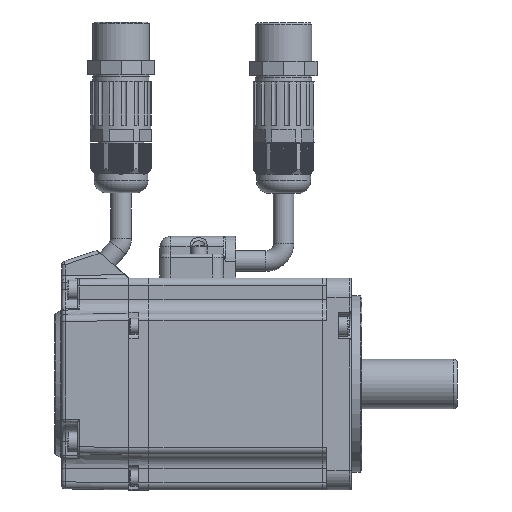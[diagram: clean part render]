
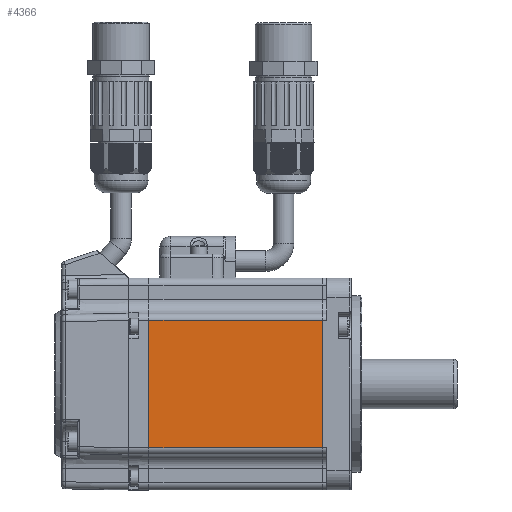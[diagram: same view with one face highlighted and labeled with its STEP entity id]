
A CAD part, left-side view. The second image highlights one B-rep face of the part: STEP entity #4366.
In plain terms, the highlighted planar face has unit normal (-1, 0, 0).
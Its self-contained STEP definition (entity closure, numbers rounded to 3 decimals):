
#2482=FACE_OUTER_BOUND('',#13911,.T.);
#4366=ADVANCED_FACE('',(#2482),#6500,.F.);
#6500=PLANE('',#36196);
#7929=LINE('',#48356,#10614);
#7941=LINE('',#48402,#10626);
#7942=LINE('',#48404,#10627);
#7968=LINE('',#48484,#10653);
#10614=VECTOR('',#39330,1.);
#10626=VECTOR('',#39372,1.);
#10627=VECTOR('',#39375,1.);
#10653=VECTOR('',#39469,1.);
#13911=EDGE_LOOP('',(#16445,#16446,#16447,#16448));
#16445=ORIENTED_EDGE('',*,*,#29983,.T.);
#16446=ORIENTED_EDGE('',*,*,#29959,.F.);
#16447=ORIENTED_EDGE('',*,*,#29982,.T.);
#16448=ORIENTED_EDGE('',*,*,#30021,.F.);
#26643=VERTEX_POINT('',#48355);
#26644=VERTEX_POINT('',#48357);
#26662=VERTEX_POINT('',#48401);
#26663=VERTEX_POINT('',#48405);
#29959=EDGE_CURVE('',#26643,#26644,#7929,.T.);
#29982=EDGE_CURVE('',#26643,#26662,#7941,.T.);
#29983=EDGE_CURVE('',#26663,#26644,#7942,.T.);
#30021=EDGE_CURVE('',#26663,#26662,#7968,.T.);
#36196=AXIS2_PLACEMENT_3D('',#48485,#39470,#39471);
#39330=DIRECTION('',(0.,0.,-1.));
#39372=DIRECTION('',(0.,1.,0.));
#39375=DIRECTION('',(0.,-1.,0.));
#39469=DIRECTION('',(0.,0.,1.));
#39470=DIRECTION('',(1.,0.,0.));
#39471=DIRECTION('',(0.,-1.,0.));
#48355=CARTESIAN_POINT('',(-115.303,95.19,32.521));
#48356=CARTESIAN_POINT('',(-115.303,95.19,14.521));
#48357=CARTESIAN_POINT('',(-115.303,95.19,-3.479));
#48401=CARTESIAN_POINT('',(-115.303,144.291,32.521));
#48402=CARTESIAN_POINT('',(-115.303,130.19,32.521));
#48404=CARTESIAN_POINT('',(-115.303,130.19,-3.479));
#48405=CARTESIAN_POINT('',(-115.303,144.291,-3.479));
#48484=CARTESIAN_POINT('',(-115.303,144.291,14.521));
#48485=CARTESIAN_POINT('',(-115.303,130.19,-15.479));
